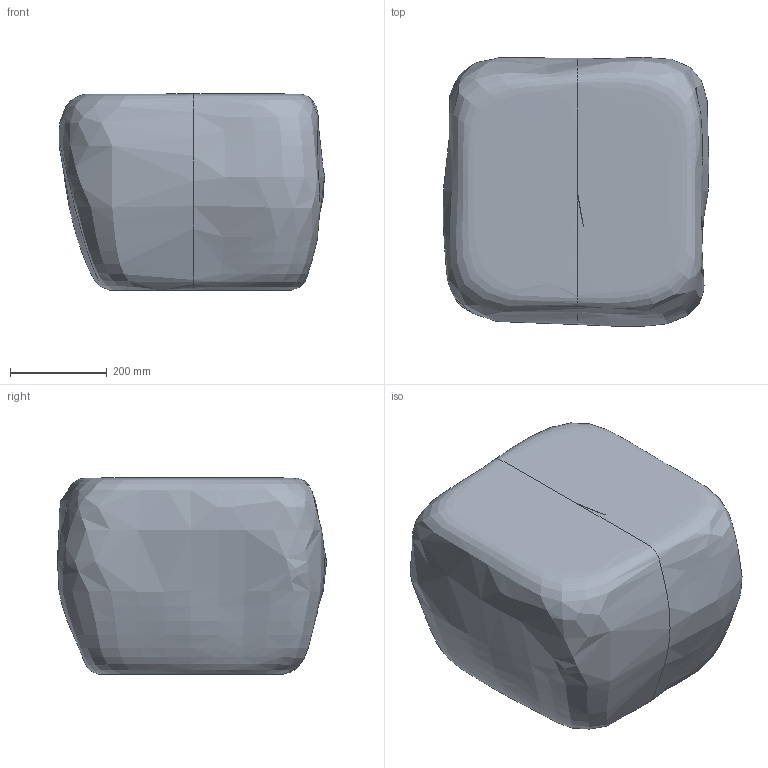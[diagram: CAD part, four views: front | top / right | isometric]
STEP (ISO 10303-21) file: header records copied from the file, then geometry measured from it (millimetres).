
FILE_DESCRIPTION(/* description */ (''),/* implementation_level */ '2;1');
FILE_NAME(/* name */ 'Ishi Coffee Table Medio',/* time_stamp */ '2025-05-26T17:26:03+02:00',/* author */ (''),/* organization */ (''),/* preprocessor_version */ 'ST-DEVELOPER v16.5',/* originating_system */ 'Rhino 7.38',/* authorisation */ '');
FILE_SCHEMA (('CONFIG_CONTROL_DESIGN'));
Length unit declared in the file: millimetre
Products named in the file (1): Document
Bounding box: 549.52 x 556.16 x 405.04 mm (x, y, z)
Volume: 100721278.6 mm3; surface area: 1157549.6 mm2
Topology: 1 solids, 1 shells, 3 faces, 6 edges, 3 vertices
Faces by surface type: bspline 3
Entity records: 788 total; most frequent: CARTESIAN_POINT 637, B_SPLINE_CURVE_WITH_KNOTS 12, ORIENTED_EDGE 8, PCURVE 8, DEFINITIONAL_REPRESENTATION 8, ORGANIZATION 7, PERSON_AND_ORGANIZATION 7, LOCAL_TIME 5
